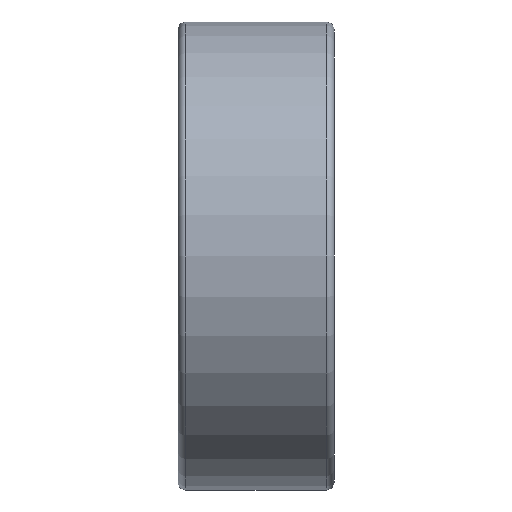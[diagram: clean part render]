
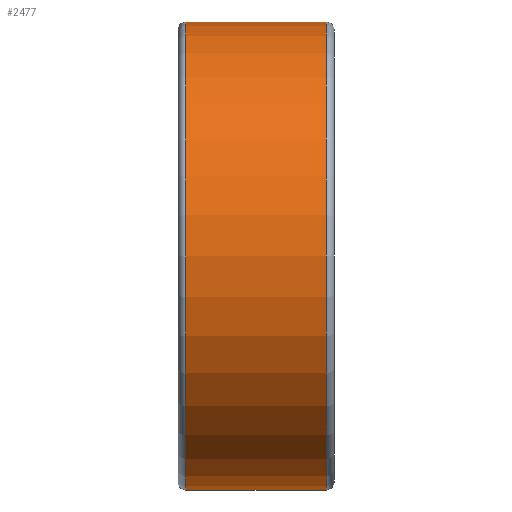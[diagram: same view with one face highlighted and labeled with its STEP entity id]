
A CAD part, front view. The second image highlights one B-rep face of the part: STEP entity #2477.
In plain terms, the highlighted cylindrical face has radius 6 mm (diameter 12 mm), a partial arc.
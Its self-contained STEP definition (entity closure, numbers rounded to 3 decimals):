
#789=CARTESIAN_POINT('',(1.8,0.,0.));
#790=DIRECTION('',(-1.,0.,0.));
#791=DIRECTION('',(0.,0.,-1.));
#792=AXIS2_PLACEMENT_3D('',#789,#790,#791);
#1378=DIRECTION('',(-1.,0.,0.));
#1379=VECTOR('',#1378,3.6);
#1380=CARTESIAN_POINT('',(1.8,0.,6.));
#1381=LINE('',#1380,#1379);
#1382=DIRECTION('',(-1.,0.,0.));
#1383=VECTOR('',#1382,3.6);
#1384=CARTESIAN_POINT('',(1.8,0.,-6.));
#1385=LINE('',#1384,#1383);
#1391=CARTESIAN_POINT('',(-1.8,0.,0.));
#1392=DIRECTION('',(1.,0.,0.));
#1393=DIRECTION('',(0.,0.,1.));
#1394=AXIS2_PLACEMENT_3D('',#1391,#1392,#1393);
#1542=CARTESIAN_POINT('',(1.8,0.,6.));
#1543=VERTEX_POINT('',#1542);
#1544=CARTESIAN_POINT('',(1.8,0.,-6.));
#1545=VERTEX_POINT('',#1544);
#1550=CARTESIAN_POINT('',(-1.8,0.,-6.));
#1551=VERTEX_POINT('',#1550);
#1552=CARTESIAN_POINT('',(-1.8,0.,6.));
#1553=VERTEX_POINT('',#1552);
#2465=CARTESIAN_POINT('',(0.,0.,0.));
#2466=DIRECTION('',(-1.,0.,0.));
#2467=DIRECTION('',(0.,0.,1.));
#2468=AXIS2_PLACEMENT_3D('',#2465,#2466,#2467);
#2469=CYLINDRICAL_SURFACE('',#2468,6.);
#2470=ORIENTED_EDGE('',*,*,#2460,.T.);
#2472=ORIENTED_EDGE('',*,*,#2471,.F.);
#2473=ORIENTED_EDGE('',*,*,#2457,.F.);
#2474=ORIENTED_EDGE('',*,*,#1601,.F.);
#2475=EDGE_LOOP('',(#2470,#2472,#2473,#2474));
#2476=FACE_OUTER_BOUND('',#2475,.F.);
#2477=ADVANCED_FACE('',(#2476),#2469,.T.);
#793=CIRCLE('',#792,6.);
#1395=CIRCLE('',#1394,6.);
#1601=EDGE_CURVE('',#1545,#1543,#793,.T.);
#2457=EDGE_CURVE('',#1543,#1553,#1381,.T.);
#2460=EDGE_CURVE('',#1545,#1551,#1385,.T.);
#2471=EDGE_CURVE('',#1553,#1551,#1395,.T.);
